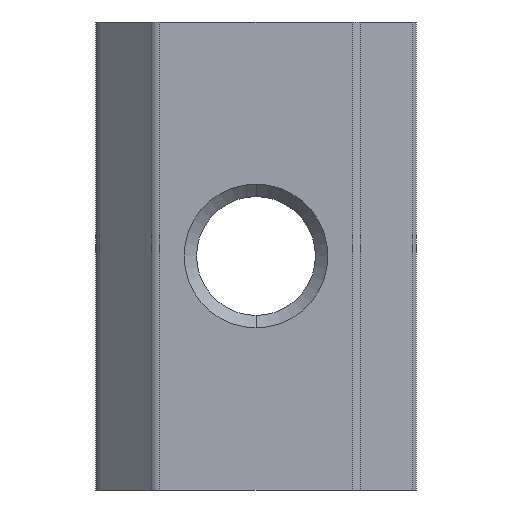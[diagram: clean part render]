
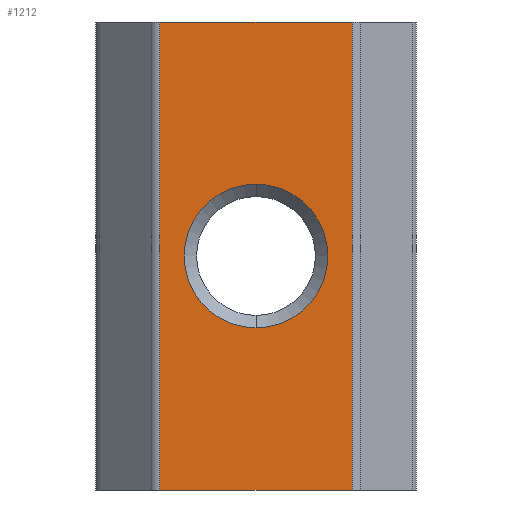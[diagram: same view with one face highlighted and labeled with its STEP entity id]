
A CAD part, front view. The second image highlights one B-rep face of the part: STEP entity #1212.
In plain terms, the highlighted planar face has unit normal (0, -1, 0).
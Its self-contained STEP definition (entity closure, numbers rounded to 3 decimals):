
#4 = VERTEX_POINT ( 'NONE', #1030 ) ;
#8 = VECTOR ( 'NONE', #447, 1000. ) ;
#29 = VERTEX_POINT ( 'NONE', #752 ) ;
#44 = DIRECTION ( 'NONE',  ( -1., 0., 0. ) ) ;
#70 = CARTESIAN_POINT ( 'NONE',  ( 2.707, 0., 0. ) ) ;
#79 = VERTEX_POINT ( 'NONE', #228 ) ;
#136 = CARTESIAN_POINT ( 'NONE',  ( 0., 0., 0. ) ) ;
#141 = EDGE_CURVE ( 'NONE', #651, #29, #491, .T. ) ;
#195 = DIRECTION ( 'NONE',  ( 1., 0., 0. ) ) ;
#228 = CARTESIAN_POINT ( 'NONE',  ( 2.707, 0., 0. ) ) ;
#264 = LINE ( 'NONE', #1210, #8 ) ;
#293 = LINE ( 'NONE', #1049, #540 ) ;
#356 = DIRECTION ( 'NONE',  ( 0., 0., -1. ) ) ;
#361 = ORIENTED_EDGE ( 'NONE', *, *, #365, .F. ) ;
#365 = EDGE_CURVE ( 'NONE', #824, #4, #611, .T. ) ;
#375 = CARTESIAN_POINT ( 'NONE',  ( 6.75, 0., -9.85 ) ) ;
#402 = PLANE ( 'NONE',  #1036 ) ;
#416 = CARTESIAN_POINT ( 'NONE',  ( 0., 0., -19.7 ) ) ;
#420 = FACE_BOUND ( 'NONE', #1075, .T. ) ;
#430 = AXIS2_PLACEMENT_3D ( 'NONE', #872, #976, #1171 ) ;
#447 = DIRECTION ( 'NONE',  ( 0., 0., 1. ) ) ;
#491 = CIRCLE ( 'NONE', #430, 3.025 ) ;
#510 = EDGE_CURVE ( 'NONE', #29, #651, #1211, .T. ) ;
#517 = CARTESIAN_POINT ( 'NONE',  ( 6.75, 0., -12.875 ) ) ;
#522 = DIRECTION ( 'NONE',  ( 0., -1., 0. ) ) ;
#526 = EDGE_CURVE ( 'NONE', #824, #933, #264, .T. ) ;
#537 = ORIENTED_EDGE ( 'NONE', *, *, #141, .T. ) ;
#540 = VECTOR ( 'NONE', #195, 1000. ) ;
#564 = DIRECTION ( 'NONE',  ( 0., 0., 1. ) ) ;
#611 = LINE ( 'NONE', #416, #871 ) ;
#651 = VERTEX_POINT ( 'NONE', #517 ) ;
#676 = VECTOR ( 'NONE', #356, 1000. ) ;
#713 = ORIENTED_EDGE ( 'NONE', *, *, #526, .T. ) ;
#733 = LINE ( 'NONE', #70, #676 ) ;
#752 = CARTESIAN_POINT ( 'NONE',  ( 6.75, 0., -6.825 ) ) ;
#812 = CARTESIAN_POINT ( 'NONE',  ( 10.793, 0., -19.7 ) ) ;
#824 = VERTEX_POINT ( 'NONE', #812 ) ;
#825 = CARTESIAN_POINT ( 'NONE',  ( 10.793, 0., 0. ) ) ;
#851 = ORIENTED_EDGE ( 'NONE', *, *, #1010, .F. ) ;
#871 = VECTOR ( 'NONE', #44, 1000. ) ;
#872 = CARTESIAN_POINT ( 'NONE',  ( 6.75, 0., -9.85 ) ) ;
#873 = EDGE_CURVE ( 'NONE', #79, #4, #733, .T. ) ;
#899 = DIRECTION ( 'NONE',  ( 0., 0., -1. ) ) ;
#918 = DIRECTION ( 'NONE',  ( 0., 1., 0. ) ) ;
#925 = AXIS2_PLACEMENT_3D ( 'NONE', #375, #918, #564 ) ;
#933 = VERTEX_POINT ( 'NONE', #825 ) ;
#935 = ORIENTED_EDGE ( 'NONE', *, *, #510, .T. ) ;
#976 = DIRECTION ( 'NONE',  ( 0., 1., 0. ) ) ;
#1010 = EDGE_CURVE ( 'NONE', #79, #933, #293, .T. ) ;
#1019 = ORIENTED_EDGE ( 'NONE', *, *, #873, .T. ) ;
#1030 = CARTESIAN_POINT ( 'NONE',  ( 2.707, 0., -19.7 ) ) ;
#1036 = AXIS2_PLACEMENT_3D ( 'NONE', #136, #522, #899 ) ;
#1049 = CARTESIAN_POINT ( 'NONE',  ( 0., 0., 0. ) ) ;
#1075 = EDGE_LOOP ( 'NONE', ( #537, #935 ) ) ;
#1087 = FACE_OUTER_BOUND ( 'NONE', #1190, .T. ) ;
#1171 = DIRECTION ( 'NONE',  ( 0., 0., 1. ) ) ;
#1190 = EDGE_LOOP ( 'NONE', ( #851, #1019, #361, #713 ) ) ;
#1210 = CARTESIAN_POINT ( 'NONE',  ( 10.793, 0., 0. ) ) ;
#1211 = CIRCLE ( 'NONE', #925, 3.025 ) ;
#1212 = ADVANCED_FACE ( 'NONE', ( #420, #1087 ), #402, .T. ) ;
